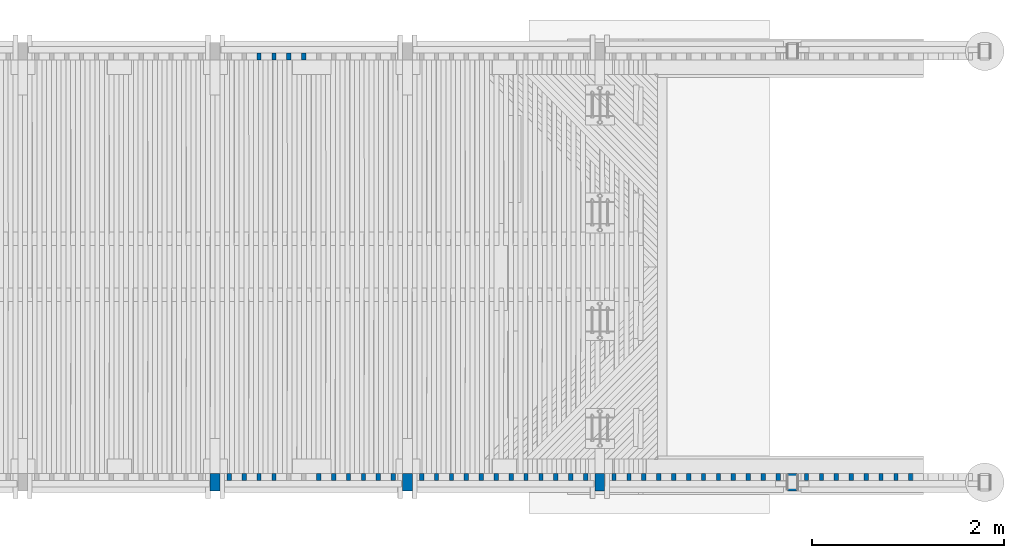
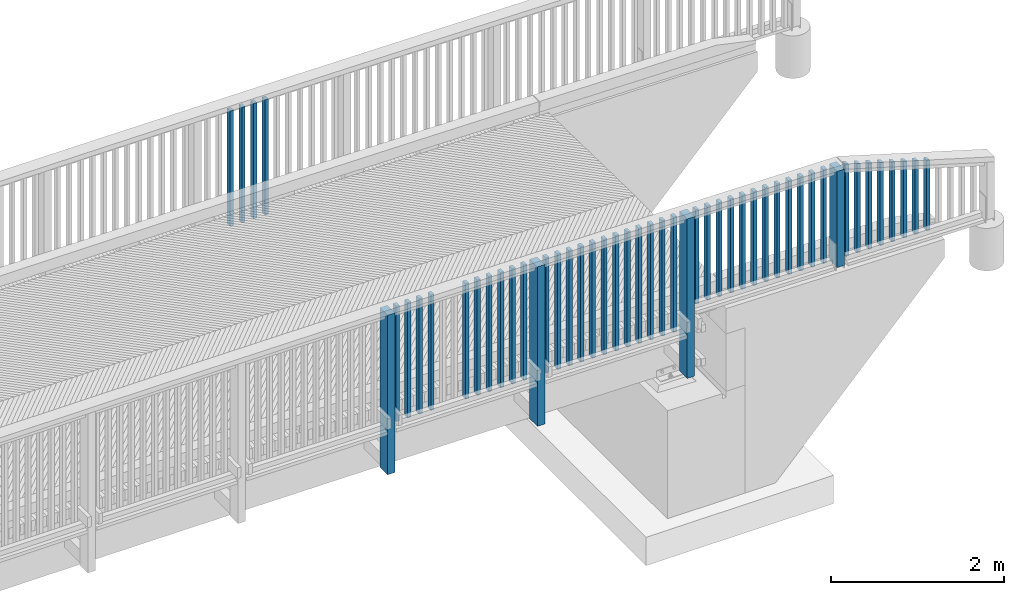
# One storey, part 10 of 52: 50 columns.
"""IFC2X3 building model written with IfcOpenShell, lengths in millimetres."""

import ifcopenshell
import ifcopenshell.guid

model = None  # the IFC model being written
_history = None  # IfcOwnerHistory: only IFC2X3 demands one
_inside = {}  # id of a spatial element -> (the spatial element, [elements in it])
_under = {}  # id of a project, library or spatial element -> (it, [spatial elements below it])
_declared = {}  # id of a project -> (the project, [libraries it declares])
_typed = {}  # id of a type object -> (the type object, [elements of that type])
_made_of = {}  # id of a material, layer set ... -> (it, [elements and type objects made of it])


def new_model(schema):
    """Start an empty IFC model of exactly this schema.

    Asked for "IFC4X3", IfcOpenShell would pick the latest addendum, in which some entities
    have other attributes; the version numbers below select the first issue.
    IFC2X3 requires an IfcOwnerHistory on every rooted entity: one is made here for all.
    """
    global model, _history
    if schema == "IFC4X3":
        model = ifcopenshell.file(schema_version=(4, 3, 0, 0))
    else:
        model = ifcopenshell.file(schema=schema)
    _inside.clear()
    _under.clear()
    _declared.clear()
    _typed.clear()
    _made_of.clear()
    _history = None
    if model.schema == "IFC2X3":
        org = make("IfcOrganization", Name="unknown")
        user = make(
            "IfcPersonAndOrganization",
            ThePerson=make("IfcPerson", FamilyName="unknown"),
            TheOrganization=org,
        )
        app = make(
            "IfcApplication",
            ApplicationDeveloper=org,
            Version="unknown",
            ApplicationFullName="unknown",
            ApplicationIdentifier="unknown",
        )
        _history = make(
            "IfcOwnerHistory",
            OwningUser=user,
            OwningApplication=app,
            ChangeAction="ADDED",
            CreationDate=0,
        )
    return model


def make(cls, **values):
    """One entity of the class cls with the attributes given. An attribute that is None is left unset."""
    return model.create_entity(
        cls, **{name: value for name, value in values.items() if value is not None}
    )


def rooted(cls, **values):
    """An entity with a GlobalId (a new one), such as an element, a storey or a relation."""
    return make(cls, GlobalId=ifcopenshell.guid.new(), OwnerHistory=_history, **values)


def si_unit(unit_type, name, prefix=None):
    """IfcSIUnit, for example si_unit("LENGTHUNIT", "METRE", prefix="MILLI")."""
    return make("IfcSIUnit", UnitType=unit_type, Prefix=prefix, Name=name)


def assignment(units):
    """IfcUnitAssignment: the units of a project."""
    return None if units is None else make("IfcUnitAssignment", Units=units)


def point(xyz):
    """IfcCartesianPoint."""
    return None if xyz is None else make("IfcCartesianPoint", Coordinates=xyz)


def direction(xyz):
    """IfcDirection."""
    return None if xyz is None else make("IfcDirection", DirectionRatios=xyz)


def frame(location, z_axis=None, x_axis=None):
    """IfcAxis2Placement3D, a coordinate frame: its origin and axes. An axis left out is left unset."""
    return make(
        "IfcAxis2Placement3D",
        Location=point(location),
        Axis=direction(z_axis),
        RefDirection=direction(x_axis),
    )


def origin_with_axes():
    """The frame at (0, 0, 0) with the z axis (0, 0, 1) and the x axis (1, 0, 0) written out."""
    return frame((0.0, 0.0, 0.0), z_axis=(0.0, 0.0, 1.0), x_axis=(1.0, 0.0, 0.0))


def place(relative_to, where):
    """IfcLocalPlacement: puts the frame where relative to a parent placement (None: the world)."""
    return make(
        "IfcLocalPlacement", PlacementRelTo=relative_to, RelativePlacement=where
    )


def context(
    kind, dimensions, precision=None, world=None, true_north=None, identifier=None
):
    """IfcGeometricRepresentationContext, for example the 3D "Model" context."""
    return make(
        "IfcGeometricRepresentationContext",
        ContextIdentifier=identifier,
        ContextType=kind,
        CoordinateSpaceDimension=dimensions,
        Precision=precision,
        WorldCoordinateSystem=world,
        TrueNorth=true_north,
    )


def subcontext(parent, identifier, kind, view, scale=None):
    """IfcGeometricRepresentationSubContext, for example "Body" below "Model"."""
    return make(
        "IfcGeometricRepresentationSubContext",
        ContextIdentifier=identifier,
        ContextType=kind,
        ParentContext=parent,
        TargetScale=scale,
        TargetView=view,
    )


def project(units=None, contexts=None):
    """IfcProject with its units and contexts."""
    return rooted(
        "IfcProject",
        Name="project",
        RepresentationContexts=contexts,
        UnitsInContext=assignment(units),
    )


def spatial(cls, under=None, at=None, **own):
    """A site, building, storey or space (cls), placed at a placement, below another one or the project."""
    s = rooted(cls, ObjectPlacement=at, **own)
    if under is not None:
        _under.setdefault(under.id(), (under, []))[1].append(s)
    return s


def faces_of(points, faces, orient=None, outer=None):
    """IfcFace entities. A face is a list of loops; a loop is a list of indices into points, from 0.

    orient and outer hold one flag for each loop. By default every Orientation is true, the
    first loop of a face is its IfcFaceOuterBound and the others are IfcFaceBound.
    """
    made = []
    for i, loops in enumerate(faces):
        bounds = []
        for j, loop in enumerate(loops):
            is_outer = j == 0 if outer is None else outer[i][j]
            bounds.append(
                make(
                    "IfcFaceOuterBound" if is_outer else "IfcFaceBound",
                    Bound=make("IfcPolyLoop", Polygon=[points[k] for k in loop]),
                    Orientation=True if orient is None else orient[i][j],
                )
            )
        made.append(make("IfcFace", Bounds=bounds))
    return made


def faceted_brep(points, faces, orient=None, outer=None, voids=None):
    """IfcFacetedBrep: a solid bounded by flat faces; with voids (closed shells), ...WithVoids."""
    shared = [point(p) for p in points]
    hull = make("IfcClosedShell", CfsFaces=faces_of(shared, faces, orient, outer))
    if voids is None:
        return make("IfcFacetedBrep", Outer=hull)
    return make(
        "IfcFacetedBrepWithVoids",
        Outer=hull,
        Voids=[
            make(cls, CfsFaces=faces_of(shared, fs, o, b)) for cls, fs, o, b in voids
        ],
    )


def shape(context_of_items, identifier, shape_type, items):
    """IfcShapeRepresentation: the items that make up one representation, for example the "Body"."""
    return make(
        "IfcShapeRepresentation",
        ContextOfItems=context_of_items,
        RepresentationIdentifier=identifier,
        RepresentationType=shape_type,
        Items=items,
    )


def material(Name=None, Category=None):
    """IfcMaterial."""
    return make("IfcMaterial", Name=Name, Category=Category)


def made_of(thing, what):
    """Note that an element or type object is made of a material, layer set ...; save() writes the relation."""
    if what is not None:
        _made_of.setdefault(what.id(), (what, []))[1].append(thing)
    return thing


def type_object(cls, material=None, **own):
    """A type object (cls), such as IfcWallType, which elements share."""
    return made_of(rooted(cls, **own), material)


def element(
    cls,
    number,
    at=None,
    inside=None,
    cuts=None,
    type_object=None,
    material=None,
    context=None,
    identifier="Body",
    shape_type=None,
    held_by="IfcProductDefinitionShape",
    body=None,
    shapes=None,
    **own,
):
    """One element of the class cls, such as IfcWall. Its Tag is "e" and its number.

    at: its placement. inside: the storey or other place that contains it. cuts: it is an
    opening in that element (IfcRelVoidsElement). A single representation is given by context,
    identifier, shape_type and body (its items); several are given by shapes. held_by: the class
    of the entity that holds the representations. save() writes the other relations.
    """
    e = rooted(cls, Tag="e%d" % number, ObjectPlacement=at, **own)
    if body is not None:
        shapes = [shape(context, identifier, shape_type, body)]
    if shapes is not None:
        e.Representation = make(held_by, Representations=shapes)
    if inside is not None:
        _inside.setdefault(inside.id(), (inside, []))[1].append(e)
    if cuts is not None:
        rooted(
            "IfcRelVoidsElement", RelatingBuildingElement=cuts, RelatedOpeningElement=e
        )
    if type_object is not None:
        _typed.setdefault(type_object.id(), (type_object, []))[1].append(e)
    return made_of(e, material)


def aggregate(whole, parts):
    """IfcRelAggregates: a whole, such as a stair, and the parts it consists of."""
    return rooted("IfcRelAggregates", RelatingObject=whole, RelatedObjects=parts)


def save(model, path):
    """Write the relations noted so far, then the file.

    IfcRelAggregates (storeys below a building ...), IfcRelContainedInSpatialStructure (elements
    in a storey), IfcRelDefinesByType, IfcRelAssociatesMaterial and IfcRelDeclares: one each for
    every whole, place, type object, material and project.
    """
    for whole, parts in _under.values():
        aggregate(whole, parts)
    for where, things in _inside.values():
        rooted(
            "IfcRelContainedInSpatialStructure",
            RelatedElements=things,
            RelatingStructure=where,
        )
    for kind, things in _typed.values():
        rooted("IfcRelDefinesByType", RelatedObjects=things, RelatingType=kind)
    for what, things in _made_of.values():
        rooted("IfcRelAssociatesMaterial", RelatedObjects=things, RelatingMaterial=what)
    for by, libraries in _declared.values():
        rooted("IfcRelDeclares", RelatingContext=by, RelatedDefinitions=libraries)
    model.write(path)


model = new_model("IFC2X3")

# Units and contexts
model_context = context("Model", 3, precision=1e-05, world=origin_with_axes())
body_context = subcontext(model_context, "Body", "Model", "MODEL_VIEW")
ifc_project = project(units=[si_unit("LENGTHUNIT", "METRE", prefix="MILLI"), si_unit("AREAUNIT", "SQUARE_METRE"), si_unit("VOLUMEUNIT", "CUBIC_METRE"), si_unit("MASSUNIT", "GRAM", prefix="KILO"), si_unit("TIMEUNIT", "SECOND"), si_unit("PLANEANGLEUNIT", "RADIAN"), si_unit("SOLIDANGLEUNIT", "STERADIAN"), si_unit("THERMODYNAMICTEMPERATUREUNIT", "DEGREE_CELSIUS"), si_unit("LUMINOUSINTENSITYUNIT", "LUMEN")], contexts=[model_context])

# Site, building, storey
site_placement = place(None, origin_with_axes())
site = spatial("IfcSite", under=ifc_project, at=site_placement, Name="Undefined", CompositionType="ELEMENT")
building_placement = place(site_placement, origin_with_axes())
building = spatial("IfcBuilding", under=site, at=building_placement, Name="Undefined", CompositionType="ELEMENT")
storey_placement = place(building_placement, origin_with_axes())
storey = spatial("IfcBuildingStorey", under=building, at=storey_placement, Name="Undefined", CompositionType="ELEMENT", Elevation=0.0)

# Columns
ifc_material = material(Name="TIMBER/Timber_Undefined")
column_type_1 = type_object("IfcColumnType", Name="180*100", PredefinedType="NOTDEFINED")
column_1_placement = place(storey_placement, frame((17999.9999992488, 125.01209190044, 3128.38000000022), z_axis=(0.0, 1.0, 0.0), x_axis=(0.0, 0.0, 1.0)))
element("IfcColumn", 1, at=column_1_placement, inside=storey, type_object=column_type_1, material=ifc_material, Name="KAIDEPYLVÄS", ObjectType="180*100", context=body_context, shape_type="Brep", body=[
    faceted_brep([(-5.71000000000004, 50.0, -90.0), (-5.71000000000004, 50.0, 90.0), (1351.21940355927, 50.0, 90.0), (1351.21940355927, 50.0, -90.0), (-5.71000000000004, -50.0, 90.0), (1352.87649222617, -50.0, 90.0), (-5.71000000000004, -50.0, -90.0), (1352.87649222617, -50.0, -90.0)], [[[0, 1, 2, 3]], [[1, 4, 5, 2]], [[4, 6, 7, 5]], [[6, 0, 3, 7]], [[5, 7, 3, 2]], [[6, 4, 1, 0]]]),
])
for number, where, z_axis, x_axis in (
    (2, (16000.0000678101, 125.01209190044, 2260.26004297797), (0.0, 1.0, 0.0), (0.0, 0.0, 1.0)),
    (3, (14000.0000678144, 125.01209190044, 2283.46176690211), (0.0, 1.0, 0.0), (0.0, 0.0, 1.0)),
    (4, (12000.0000678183, 125.01209190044, 2300.03388065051), (0.0, 1.0, 0.0), (0.0, 0.0, 1.0)),
):
    element("IfcColumn", number, at=place(storey_placement, frame(where, z_axis=z_axis, x_axis=x_axis)), inside=storey, type_object=column_type_1, material=ifc_material, Name="KAIDEPYLVÄS", ObjectType="180*100", context=body_context, shape_type="Brep", body=[
        faceted_brep([(0.0, 50.0, -90.0), (0.0, 50.0, 90.0), (2250.0, 50.0, 90.0), (2250.0, 50.0, -90.0), (0.0, -50.0, 90.0), (2250.0, -50.0, 90.0), (0.0, -50.0, -90.0), (2250.0, -50.0, -90.0)], [[[0, 1, 2, 3]], [[1, 4, 5, 2]], [[4, 6, 7, 5]], [[6, 0, 3, 7]], [[5, 7, 3, 2]], [[6, 4, 1, 0]]]),
    ])
column_type_2 = type_object("IfcColumnType", Name="70*45", PredefinedType="NOTDEFINED")
column_2_placement = place(storey_placement, frame((18147.4999992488, 180.01209190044, 3079.15), z_axis=(0.0, -1.0, 0.0), x_axis=(0.0, 0.0, 1.0)))
element("IfcColumn", 5, at=column_2_placement, inside=storey, type_object=column_type_2, material=ifc_material, Name="BEAM", ObjectType="70*45", context=body_context, shape_type="Brep", body=[
    faceted_brep([(69.4380529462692, 22.5, -35.0), (69.4380529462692, 22.5, 35.0), (1375.94682334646, 22.5, 35.0), (1375.94682334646, 22.5, -35.0), (68.751055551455, -22.5, 35.0), (1362.51131766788, -22.5, 35.0), (68.751055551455, -22.5, -35.0), (1362.51131766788, -22.5, -35.0)], [[[0, 1, 2, 3]], [[1, 4, 5, 2]], [[4, 6, 7, 5]], [[6, 0, 3, 7]], [[5, 7, 3, 2]], [[6, 4, 1, 0]]]),
])
column_3_placement = place(storey_placement, frame((18302.4999992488, 180.01209190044, 3079.15), z_axis=(0.0, -1.0, 0.0), x_axis=(0.0, 0.0, 1.0)))
element("IfcColumn", 6, at=column_3_placement, inside=storey, type_object=column_type_2, material=ifc_material, Name="BEAM", ObjectType="70*45", context=body_context, shape_type="Brep", body=[
    faceted_brep([(67.0717285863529, 22.5, -35.0), (67.0717285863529, 22.5, 35.0), (1329.66897045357, 22.5, 35.0), (1329.66897045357, 22.5, -35.0), (66.3847311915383, -22.5, 35.0), (1316.23346477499, -22.5, 35.0), (66.3847311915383, -22.5, -35.0), (1316.23346477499, -22.5, -35.0)], [[[0, 1, 2, 3]], [[1, 4, 5, 2]], [[4, 6, 7, 5]], [[6, 0, 3, 7]], [[5, 7, 3, 2]], [[6, 4, 1, 0]]]),
])
column_4_placement = place(storey_placement, frame((18457.4999992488, 180.01209190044, 3079.15), z_axis=(0.0, -1.0, 0.0), x_axis=(0.0, 0.0, 1.0)))
element("IfcColumn", 7, at=column_4_placement, inside=storey, type_object=column_type_2, material=ifc_material, Name="BEAM", ObjectType="70*45", context=body_context, shape_type="Brep", body=[
    faceted_brep([(64.7054042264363, 22.5, -35.0), (64.7054042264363, 22.5, 35.0), (1283.39111756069, 22.5, 35.0), (1283.39111756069, 22.5, -35.0), (64.0184068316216, -22.5, 35.0), (1269.95561188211, -22.5, 35.0), (64.0184068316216, -22.5, -35.0), (1269.95561188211, -22.5, -35.0)], [[[0, 1, 2, 3]], [[1, 4, 5, 2]], [[4, 6, 7, 5]], [[6, 0, 3, 7]], [[5, 7, 3, 2]], [[6, 4, 1, 0]]]),
])
column_5_placement = place(storey_placement, frame((18612.4999992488, 180.01209190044, 3079.15), z_axis=(0.0, -1.0, 0.0), x_axis=(0.0, 0.0, 1.0)))
element("IfcColumn", 8, at=column_5_placement, inside=storey, type_object=column_type_2, material=ifc_material, Name="BEAM", ObjectType="70*45", context=body_context, shape_type="Brep", body=[
    faceted_brep([(62.3390798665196, 22.5, -35.0), (62.3390798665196, 22.5, 35.0), (1237.1132646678, 22.5, 35.0), (1237.1132646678, 22.5, -35.0), (61.6520824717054, -22.5, 35.0), (1223.67775898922, -22.5, 35.0), (61.6520824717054, -22.5, -35.0), (1223.67775898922, -22.5, -35.0)], [[[0, 1, 2, 3]], [[1, 4, 5, 2]], [[4, 6, 7, 5]], [[6, 0, 3, 7]], [[5, 7, 3, 2]], [[6, 4, 1, 0]]]),
])
column_6_placement = place(storey_placement, frame((18767.4999992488, 180.01209190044, 3079.15), z_axis=(0.0, -1.0, 0.0), x_axis=(0.0, 0.0, 1.0)))
element("IfcColumn", 9, at=column_6_placement, inside=storey, type_object=column_type_2, material=ifc_material, Name="BEAM", ObjectType="70*45", context=body_context, shape_type="Brep", body=[
    faceted_brep([(59.9727555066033, 22.5, -35.0), (59.9727555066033, 22.5, 35.0), (1190.83541177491, 22.5, 35.0), (1190.83541177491, 22.5, -35.0), (59.2857581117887, -22.5, 35.0), (1177.39990609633, -22.5, 35.0), (59.2857581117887, -22.5, -35.0), (1177.39990609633, -22.5, -35.0)], [[[0, 1, 2, 3]], [[1, 4, 5, 2]], [[4, 6, 7, 5]], [[6, 0, 3, 7]], [[5, 7, 3, 2]], [[6, 4, 1, 0]]]),
])
column_7_placement = place(storey_placement, frame((18922.4999992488, 180.01209190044, 3079.15), z_axis=(0.0, -1.0, 0.0), x_axis=(0.0, 0.0, 1.0)))
element("IfcColumn", 10, at=column_7_placement, inside=storey, type_object=column_type_2, material=ifc_material, Name="BEAM", ObjectType="70*45", context=body_context, shape_type="Brep", body=[
    faceted_brep([(57.6064311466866, 22.5, -35.0), (57.6064311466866, 22.5, 35.0), (1144.55755888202, 22.5, 35.0), (1144.55755888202, 22.5, -35.0), (56.9194337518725, -22.5, 35.0), (1131.12205320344, -22.5, 35.0), (56.9194337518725, -22.5, -35.0), (1131.12205320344, -22.5, -35.0)], [[[0, 1, 2, 3]], [[1, 4, 5, 2]], [[4, 6, 7, 5]], [[6, 0, 3, 7]], [[5, 7, 3, 2]], [[6, 4, 1, 0]]]),
])
column_8_placement = place(storey_placement, frame((19077.4999992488, 180.01209190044, 3079.15), z_axis=(0.0, -1.0, 0.0), x_axis=(0.0, 0.0, 1.0)))
element("IfcColumn", 11, at=column_8_placement, inside=storey, type_object=column_type_2, material=ifc_material, Name="BEAM", ObjectType="70*45", context=body_context, shape_type="Brep", body=[
    faceted_brep([(55.2401067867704, 22.5, -35.0), (55.2401067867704, 22.5, 35.0), (1098.27970598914, 22.5, 35.0), (1098.27970598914, 22.5, -35.0), (54.5531093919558, -22.5, 35.0), (1084.84420031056, -22.5, 35.0), (54.5531093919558, -22.5, -35.0), (1084.84420031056, -22.5, -35.0)], [[[0, 1, 2, 3]], [[1, 4, 5, 2]], [[4, 6, 7, 5]], [[6, 0, 3, 7]], [[5, 7, 3, 2]], [[6, 4, 1, 0]]]),
])
column_9_placement = place(storey_placement, frame((19232.4999992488, 180.01209190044, 3079.15), z_axis=(0.0, -1.0, 0.0), x_axis=(0.0, 0.0, 1.0)))
element("IfcColumn", 12, at=column_9_placement, inside=storey, type_object=column_type_2, material=ifc_material, Name="BEAM", ObjectType="70*45", context=body_context, shape_type="Brep", body=[
    faceted_brep([(52.8737824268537, 22.5, -35.0), (52.8737824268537, 22.5, 35.0), (1052.00185309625, 22.5, 35.0), (1052.00185309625, 22.5, -35.0), (52.1867850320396, -22.5, 35.0), (1038.56634741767, -22.5, 35.0), (52.1867850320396, -22.5, -35.0), (1038.56634741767, -22.5, -35.0)], [[[0, 1, 2, 3]], [[1, 4, 5, 2]], [[4, 6, 7, 5]], [[6, 0, 3, 7]], [[5, 7, 3, 2]], [[6, 4, 1, 0]]]),
])
column_10_placement = place(storey_placement, frame((12922.5000007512, 4549.98790809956, 3109.68000000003), z_axis=(0.0, 1.0, 0.0), x_axis=(0.0, 0.0, 1.0)))
element("IfcColumn", 13, at=column_10_placement, inside=storey, type_object=column_type_2, material=ifc_material, Name="BEAM", ObjectType="70*45", context=body_context, shape_type="Brep", body=[
    faceted_brep([(-197.455118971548, 22.5, -35.0), (-197.455118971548, 22.5, 35.0), (1432.54754364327, 22.5, 35.0), (1432.54754364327, 22.5, -35.0), (-197.062621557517, -22.5, 35.0), (1432.9400410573, -22.5, 35.0), (-197.062621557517, -22.5, -35.0), (1432.9400410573, -22.5, -35.0)], [[[0, 1, 2, 3]], [[1, 4, 5, 2]], [[4, 6, 7, 5]], [[6, 0, 3, 7]], [[5, 7, 3, 2]], [[6, 4, 1, 0]]]),
])
column_11_placement = place(storey_placement, frame((12767.5000007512, 4549.98790809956, 3109.68000000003), z_axis=(0.0, 1.0, 0.0), x_axis=(0.0, 0.0, 1.0)))
element("IfcColumn", 14, at=column_11_placement, inside=storey, type_object=column_type_2, material=ifc_material, Name="BEAM", ObjectType="70*45", context=body_context, shape_type="Brep", body=[
    faceted_brep([(-196.103183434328, 22.5, -35.0), (-196.103183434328, 22.5, 35.0), (1433.89947918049, 22.5, 35.0), (1433.89947918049, 22.5, -35.0), (-195.710686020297, -22.5, 35.0), (1434.29197659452, -22.5, 35.0), (-195.710686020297, -22.5, -35.0), (1434.29197659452, -22.5, -35.0)], [[[0, 1, 2, 3]], [[1, 4, 5, 2]], [[4, 6, 7, 5]], [[6, 0, 3, 7]], [[5, 7, 3, 2]], [[6, 4, 1, 0]]]),
])
column_12_placement = place(storey_placement, frame((12612.5000007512, 4549.98790809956, 3109.68000000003), z_axis=(0.0, 1.0, 0.0), x_axis=(0.0, 0.0, 1.0)))
element("IfcColumn", 15, at=column_12_placement, inside=storey, type_object=column_type_2, material=ifc_material, Name="BEAM", ObjectType="70*45", context=body_context, shape_type="Brep", body=[
    faceted_brep([(-194.751247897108, 22.5, -35.0), (-194.751247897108, 22.5, 35.0), (1435.25141471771, 22.5, 35.0), (1435.25141471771, 22.5, -35.0), (-194.358750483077, -22.5, 35.0), (1435.64391213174, -22.5, 35.0), (-194.358750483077, -22.5, -35.0), (1435.64391213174, -22.5, -35.0)], [[[0, 1, 2, 3]], [[1, 4, 5, 2]], [[4, 6, 7, 5]], [[6, 0, 3, 7]], [[5, 7, 3, 2]], [[6, 4, 1, 0]]]),
])
column_13_placement = place(storey_placement, frame((12457.5000007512, 4549.98790809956, 3109.68000000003), z_axis=(0.0, 1.0, 0.0), x_axis=(0.0, 0.0, 1.0)))
element("IfcColumn", 16, at=column_13_placement, inside=storey, type_object=column_type_2, material=ifc_material, Name="BEAM", ObjectType="70*45", context=body_context, shape_type="Brep", body=[
    faceted_brep([(-193.399312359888, 22.5, -35.0), (-193.399312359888, 22.5, 35.0), (1436.60335025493, 22.5, 35.0), (1436.60335025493, 22.5, -35.0), (-193.006814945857, -22.5, 35.0), (1436.99584766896, -22.5, 35.0), (-193.006814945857, -22.5, -35.0), (1436.99584766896, -22.5, -35.0)], [[[0, 1, 2, 3]], [[1, 4, 5, 2]], [[4, 6, 7, 5]], [[6, 0, 3, 7]], [[5, 7, 3, 2]], [[6, 4, 1, 0]]]),
])
column_14_placement = place(storey_placement, frame((16147.4999992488, 180.01209190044, 3109.68000000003), z_axis=(0.0, -1.0, 0.0), x_axis=(0.0, 0.0, 1.0)))
element("IfcColumn", 17, at=column_14_placement, inside=storey, type_object=column_type_2, material=ifc_material, Name="BEAM", ObjectType="70*45", context=body_context, shape_type="Brep", body=[
    faceted_brep([(69.4380529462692, 22.5, -35.0), (69.4380529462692, 22.5, 35.0), (1399.43805294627, 22.5, 35.0), (1399.43805294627, 22.5, -35.0), (68.751055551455, -22.5, 35.0), (1398.75105555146, -22.5, 35.0), (68.751055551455, -22.5, -35.0), (1398.75105555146, -22.5, -35.0)], [[[0, 1, 2, 3]], [[1, 4, 5, 2]], [[4, 6, 7, 5]], [[6, 0, 3, 7]], [[5, 7, 3, 2]], [[6, 4, 1, 0]]]),
])
column_15_placement = place(storey_placement, frame((16302.4999992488, 180.01209190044, 3109.68000000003), z_axis=(0.0, -1.0, 0.0), x_axis=(0.0, 0.0, 1.0)))
element("IfcColumn", 18, at=column_15_placement, inside=storey, type_object=column_type_2, material=ifc_material, Name="BEAM", ObjectType="70*45", context=body_context, shape_type="Brep", body=[
    faceted_brep([(67.0717285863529, 22.5, -35.0), (67.0717285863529, 22.5, 35.0), (1397.07172858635, 22.5, 35.0), (1397.07172858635, 22.5, -35.0), (66.3847311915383, -22.5, 35.0), (1396.38473119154, -22.5, 35.0), (66.3847311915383, -22.5, -35.0), (1396.38473119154, -22.5, -35.0)], [[[0, 1, 2, 3]], [[1, 4, 5, 2]], [[4, 6, 7, 5]], [[6, 0, 3, 7]], [[5, 7, 3, 2]], [[6, 4, 1, 0]]]),
])
column_16_placement = place(storey_placement, frame((16457.4999992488, 180.01209190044, 3109.68000000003), z_axis=(0.0, -1.0, 0.0), x_axis=(0.0, 0.0, 1.0)))
element("IfcColumn", 19, at=column_16_placement, inside=storey, type_object=column_type_2, material=ifc_material, Name="BEAM", ObjectType="70*45", context=body_context, shape_type="Brep", body=[
    faceted_brep([(64.7054042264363, 22.5, -35.0), (64.7054042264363, 22.5, 35.0), (1394.70540422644, 22.5, 35.0), (1394.70540422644, 22.5, -35.0), (64.0184068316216, -22.5, 35.0), (1394.01840683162, -22.5, 35.0), (64.0184068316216, -22.5, -35.0), (1394.01840683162, -22.5, -35.0)], [[[0, 1, 2, 3]], [[1, 4, 5, 2]], [[4, 6, 7, 5]], [[6, 0, 3, 7]], [[5, 7, 3, 2]], [[6, 4, 1, 0]]]),
])
column_17_placement = place(storey_placement, frame((16612.4999992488, 180.01209190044, 3109.68000000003), z_axis=(0.0, -1.0, 0.0), x_axis=(0.0, 0.0, 1.0)))
element("IfcColumn", 20, at=column_17_placement, inside=storey, type_object=column_type_2, material=ifc_material, Name="BEAM", ObjectType="70*45", context=body_context, shape_type="Brep", body=[
    faceted_brep([(62.3390798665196, 22.5, -35.0), (62.3390798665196, 22.5, 35.0), (1392.33907986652, 22.5, 35.0), (1392.33907986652, 22.5, -35.0), (61.6520824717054, -22.5, 35.0), (1391.65208247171, -22.5, 35.0), (61.6520824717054, -22.5, -35.0), (1391.65208247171, -22.5, -35.0)], [[[0, 1, 2, 3]], [[1, 4, 5, 2]], [[4, 6, 7, 5]], [[6, 0, 3, 7]], [[5, 7, 3, 2]], [[6, 4, 1, 0]]]),
])
column_18_placement = place(storey_placement, frame((16767.4999992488, 180.01209190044, 3109.68000000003), z_axis=(0.0, -1.0, 0.0), x_axis=(0.0, 0.0, 1.0)))
element("IfcColumn", 21, at=column_18_placement, inside=storey, type_object=column_type_2, material=ifc_material, Name="BEAM", ObjectType="70*45", context=body_context, shape_type="Brep", body=[
    faceted_brep([(59.9727555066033, 22.5, -35.0), (59.9727555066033, 22.5, 35.0), (1389.97275550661, 22.5, 35.0), (1389.97275550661, 22.5, -35.0), (59.2857581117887, -22.5, 35.0), (1389.28575811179, -22.5, 35.0), (59.2857581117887, -22.5, -35.0), (1389.28575811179, -22.5, -35.0)], [[[0, 1, 2, 3]], [[1, 4, 5, 2]], [[4, 6, 7, 5]], [[6, 0, 3, 7]], [[5, 7, 3, 2]], [[6, 4, 1, 0]]]),
])
column_19_placement = place(storey_placement, frame((16922.4999992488, 180.01209190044, 3109.68000000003), z_axis=(0.0, -1.0, 0.0), x_axis=(0.0, 0.0, 1.0)))
element("IfcColumn", 22, at=column_19_placement, inside=storey, type_object=column_type_2, material=ifc_material, Name="BEAM", ObjectType="70*45", context=body_context, shape_type="Brep", body=[
    faceted_brep([(57.6064311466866, 22.5, -35.0), (57.6064311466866, 22.5, 35.0), (1387.60643114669, 22.5, 35.0), (1387.60643114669, 22.5, -35.0), (56.9194337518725, -22.5, 35.0), (1386.91943375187, -22.5, 35.0), (56.9194337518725, -22.5, -35.0), (1386.91943375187, -22.5, -35.0)], [[[0, 1, 2, 3]], [[1, 4, 5, 2]], [[4, 6, 7, 5]], [[6, 0, 3, 7]], [[5, 7, 3, 2]], [[6, 4, 1, 0]]]),
])
column_20_placement = place(storey_placement, frame((17077.4999992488, 180.01209190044, 3109.68000000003), z_axis=(0.0, -1.0, 0.0), x_axis=(0.0, 0.0, 1.0)))
element("IfcColumn", 23, at=column_20_placement, inside=storey, type_object=column_type_2, material=ifc_material, Name="BEAM", ObjectType="70*45", context=body_context, shape_type="Brep", body=[
    faceted_brep([(55.2401067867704, 22.5, -35.0), (55.2401067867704, 22.5, 35.0), (1385.24010678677, 22.5, 35.0), (1385.24010678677, 22.5, -35.0), (54.5531093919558, -22.5, 35.0), (1384.55310939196, -22.5, 35.0), (54.5531093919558, -22.5, -35.0), (1384.55310939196, -22.5, -35.0)], [[[0, 1, 2, 3]], [[1, 4, 5, 2]], [[4, 6, 7, 5]], [[6, 0, 3, 7]], [[5, 7, 3, 2]], [[6, 4, 1, 0]]]),
])
column_21_placement = place(storey_placement, frame((17232.4999992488, 180.01209190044, 3109.68000000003), z_axis=(0.0, -1.0, 0.0), x_axis=(0.0, 0.0, 1.0)))
element("IfcColumn", 24, at=column_21_placement, inside=storey, type_object=column_type_2, material=ifc_material, Name="BEAM", ObjectType="70*45", context=body_context, shape_type="Brep", body=[
    faceted_brep([(52.8737824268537, 22.5, -35.0), (52.8737824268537, 22.5, 35.0), (1382.87378242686, 22.5, 35.0), (1382.87378242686, 22.5, -35.0), (52.1867850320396, -22.5, 35.0), (1382.18678503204, -22.5, 35.0), (52.1867850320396, -22.5, -35.0), (1382.18678503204, -22.5, -35.0)], [[[0, 1, 2, 3]], [[1, 4, 5, 2]], [[4, 6, 7, 5]], [[6, 0, 3, 7]], [[5, 7, 3, 2]], [[6, 4, 1, 0]]]),
])
column_22_placement = place(storey_placement, frame((17387.4999992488, 180.01209190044, 3109.68000000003), z_axis=(0.0, -1.0, 0.0), x_axis=(0.0, 0.0, 1.0)))
element("IfcColumn", 25, at=column_22_placement, inside=storey, type_object=column_type_2, material=ifc_material, Name="BEAM", ObjectType="70*45", context=body_context, shape_type="Brep", body=[
    faceted_brep([(50.5074580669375, 22.5, -35.0), (50.5074580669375, 22.5, 35.0), (1380.50745806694, 22.5, 35.0), (1380.50745806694, 22.5, -35.0), (49.8204606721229, -22.5, 35.0), (1379.82046067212, -22.5, 35.0), (49.8204606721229, -22.5, -35.0), (1379.82046067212, -22.5, -35.0)], [[[0, 1, 2, 3]], [[1, 4, 5, 2]], [[4, 6, 7, 5]], [[6, 0, 3, 7]], [[5, 7, 3, 2]], [[6, 4, 1, 0]]]),
])
column_23_placement = place(storey_placement, frame((17542.4999992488, 180.01209190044, 3109.68000000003), z_axis=(0.0, -1.0, 0.0), x_axis=(0.0, 0.0, 1.0)))
element("IfcColumn", 26, at=column_23_placement, inside=storey, type_object=column_type_2, material=ifc_material, Name="BEAM", ObjectType="70*45", context=body_context, shape_type="Brep", body=[
    faceted_brep([(48.1411337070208, 22.5, -35.0), (48.1411337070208, 22.5, 35.0), (1378.14113370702, 22.5, 35.0), (1378.14113370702, 22.5, -35.0), (47.4541363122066, -22.5, 35.0), (1377.45413631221, -22.5, 35.0), (47.4541363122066, -22.5, -35.0), (1377.45413631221, -22.5, -35.0)], [[[0, 1, 2, 3]], [[1, 4, 5, 2]], [[4, 6, 7, 5]], [[6, 0, 3, 7]], [[5, 7, 3, 2]], [[6, 4, 1, 0]]]),
])
column_24_placement = place(storey_placement, frame((17697.4999992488, 180.01209190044, 3109.68000000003), z_axis=(0.0, -1.0, 0.0), x_axis=(0.0, 0.0, 1.0)))
element("IfcColumn", 27, at=column_24_placement, inside=storey, type_object=column_type_2, material=ifc_material, Name="BEAM", ObjectType="70*45", context=body_context, shape_type="Brep", body=[
    faceted_brep([(45.7748093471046, 22.5, -35.0), (45.7748093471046, 22.5, 35.0), (1375.77480934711, 22.5, 35.0), (1375.77480934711, 22.5, -35.0), (45.0878119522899, -22.5, 35.0), (1375.08781195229, -22.5, 35.0), (45.0878119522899, -22.5, -35.0), (1375.08781195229, -22.5, -35.0)], [[[0, 1, 2, 3]], [[1, 4, 5, 2]], [[4, 6, 7, 5]], [[6, 0, 3, 7]], [[5, 7, 3, 2]], [[6, 4, 1, 0]]]),
])
column_25_placement = place(storey_placement, frame((17852.4999992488, 180.01209190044, 3109.68000000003), z_axis=(0.0, -1.0, 0.0), x_axis=(0.0, 0.0, 1.0)))
element("IfcColumn", 28, at=column_25_placement, inside=storey, type_object=column_type_2, material=ifc_material, Name="BEAM", ObjectType="70*45", context=body_context, shape_type="Brep", body=[
    faceted_brep([(43.4084849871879, 22.5, -35.0), (43.4084849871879, 22.5, 35.0), (1373.40848498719, 22.5, 35.0), (1373.40848498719, 22.5, -35.0), (42.7214875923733, -22.5, 35.0), (1372.72148759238, -22.5, 35.0), (42.7214875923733, -22.5, -35.0), (1372.72148759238, -22.5, -35.0)], [[[0, 1, 2, 3]], [[1, 4, 5, 2]], [[4, 6, 7, 5]], [[6, 0, 3, 7]], [[5, 7, 3, 2]], [[6, 4, 1, 0]]]),
])
column_26_placement = place(storey_placement, frame((15852.5000007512, 180.01209190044, 3109.68000000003), z_axis=(0.0, -1.0, 0.0), x_axis=(0.0, 0.0, 1.0)))
element("IfcColumn", 29, at=column_26_placement, inside=storey, type_object=column_type_2, material=ifc_material, Name="BEAM", ObjectType="70*45", context=body_context, shape_type="Brep", body=[
    faceted_brep([(-227.959802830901, 22.5, -35.0), (-227.959802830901, 22.5, 35.0), (1402.04537438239, 22.5, 35.0), (1402.04537438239, 22.5, -35.0), (-228.509317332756, -22.5, 35.0), (1401.49585889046, -22.5, 35.0), (-228.509317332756, -22.5, -35.0), (1401.49585889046, -22.5, -35.0)], [[[0, 1, 2, 3]], [[1, 4, 5, 2]], [[4, 6, 7, 5]], [[6, 0, 3, 7]], [[5, 7, 3, 2]], [[6, 4, 1, 0]]]),
])
column_27_placement = place(storey_placement, frame((15697.5000007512, 180.01209190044, 3109.68000000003), z_axis=(0.0, -1.0, 0.0), x_axis=(0.0, 0.0, 1.0)))
element("IfcColumn", 30, at=column_27_placement, inside=storey, type_object=column_type_2, material=ifc_material, Name="BEAM", ObjectType="70*45", context=body_context, shape_type="Brep", body=[
    faceted_brep([(-226.067030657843, 22.5, -35.0), (-226.067030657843, 22.5, 35.0), (1403.9381499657, 22.5, 35.0), (1403.9381499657, 22.5, -35.0), (-226.616545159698, -22.5, 35.0), (1403.38863447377, -22.5, 35.0), (-226.616545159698, -22.5, -35.0), (1403.38863447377, -22.5, -35.0)], [[[0, 1, 2, 3]], [[1, 4, 5, 2]], [[4, 6, 7, 5]], [[6, 0, 3, 7]], [[5, 7, 3, 2]], [[6, 4, 1, 0]]]),
])
column_28_placement = place(storey_placement, frame((15542.5000007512, 180.01209190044, 3109.68000000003), z_axis=(0.0, -1.0, 0.0), x_axis=(0.0, 0.0, 1.0)))
element("IfcColumn", 31, at=column_28_placement, inside=storey, type_object=column_type_2, material=ifc_material, Name="BEAM", ObjectType="70*45", context=body_context, shape_type="Brep", body=[
    faceted_brep([(-224.174258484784, 22.5, -35.0), (-224.174258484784, 22.5, 35.0), (1405.83092554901, 22.5, 35.0), (1405.83092554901, 22.5, -35.0), (-224.72377298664, -22.5, 35.0), (1405.28141005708, -22.5, 35.0), (-224.72377298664, -22.5, -35.0), (1405.28141005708, -22.5, -35.0)], [[[0, 1, 2, 3]], [[1, 4, 5, 2]], [[4, 6, 7, 5]], [[6, 0, 3, 7]], [[5, 7, 3, 2]], [[6, 4, 1, 0]]]),
])
column_29_placement = place(storey_placement, frame((15387.5000007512, 180.01209190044, 3109.68000000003), z_axis=(0.0, -1.0, 0.0), x_axis=(0.0, 0.0, 1.0)))
element("IfcColumn", 32, at=column_29_placement, inside=storey, type_object=column_type_2, material=ifc_material, Name="BEAM", ObjectType="70*45", context=body_context, shape_type="Brep", body=[
    faceted_brep([(-222.281486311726, 22.5, -35.0), (-222.281486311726, 22.5, 35.0), (1407.72370113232, 22.5, 35.0), (1407.72370113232, 22.5, -35.0), (-222.831000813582, -22.5, 35.0), (1407.17418564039, -22.5, 35.0), (-222.831000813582, -22.5, -35.0), (1407.17418564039, -22.5, -35.0)], [[[0, 1, 2, 3]], [[1, 4, 5, 2]], [[4, 6, 7, 5]], [[6, 0, 3, 7]], [[5, 7, 3, 2]], [[6, 4, 1, 0]]]),
])
column_30_placement = place(storey_placement, frame((15232.5000007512, 180.01209190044, 3109.68000000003), z_axis=(0.0, -1.0, 0.0), x_axis=(0.0, 0.0, 1.0)))
element("IfcColumn", 33, at=column_30_placement, inside=storey, type_object=column_type_2, material=ifc_material, Name="BEAM", ObjectType="70*45", context=body_context, shape_type="Brep", body=[
    faceted_brep([(-220.388714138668, 22.5, -35.0), (-220.388714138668, 22.5, 35.0), (1409.61647671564, 22.5, 35.0), (1409.61647671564, 22.5, -35.0), (-220.938228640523, -22.5, 35.0), (1409.06696122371, -22.5, 35.0), (-220.938228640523, -22.5, -35.0), (1409.06696122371, -22.5, -35.0)], [[[0, 1, 2, 3]], [[1, 4, 5, 2]], [[4, 6, 7, 5]], [[6, 0, 3, 7]], [[5, 7, 3, 2]], [[6, 4, 1, 0]]]),
])
column_31_placement = place(storey_placement, frame((15077.5000007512, 180.01209190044, 3109.68000000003), z_axis=(0.0, -1.0, 0.0), x_axis=(0.0, 0.0, 1.0)))
element("IfcColumn", 34, at=column_31_placement, inside=storey, type_object=column_type_2, material=ifc_material, Name="BEAM", ObjectType="70*45", context=body_context, shape_type="Brep", body=[
    faceted_brep([(-218.495941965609, 22.5, -35.0), (-218.495941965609, 22.5, 35.0), (1411.50925229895, 22.5, 35.0), (1411.50925229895, 22.5, -35.0), (-219.045456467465, -22.5, 35.0), (1410.95973680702, -22.5, 35.0), (-219.045456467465, -22.5, -35.0), (1410.95973680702, -22.5, -35.0)], [[[0, 1, 2, 3]], [[1, 4, 5, 2]], [[4, 6, 7, 5]], [[6, 0, 3, 7]], [[5, 7, 3, 2]], [[6, 4, 1, 0]]]),
])
column_32_placement = place(storey_placement, frame((14922.5000007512, 180.01209190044, 3109.68000000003), z_axis=(0.0, -1.0, 0.0), x_axis=(0.0, 0.0, 1.0)))
element("IfcColumn", 35, at=column_32_placement, inside=storey, type_object=column_type_2, material=ifc_material, Name="BEAM", ObjectType="70*45", context=body_context, shape_type="Brep", body=[
    faceted_brep([(-216.603169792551, 22.5, -35.0), (-216.603169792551, 22.5, 35.0), (1413.40202788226, 22.5, 35.0), (1413.40202788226, 22.5, -35.0), (-217.152684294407, -22.5, 35.0), (1412.85251239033, -22.5, 35.0), (-217.152684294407, -22.5, -35.0), (1412.85251239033, -22.5, -35.0)], [[[0, 1, 2, 3]], [[1, 4, 5, 2]], [[4, 6, 7, 5]], [[6, 0, 3, 7]], [[5, 7, 3, 2]], [[6, 4, 1, 0]]]),
])
column_33_placement = place(storey_placement, frame((14767.5000007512, 180.01209190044, 3109.68000000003), z_axis=(0.0, -1.0, 0.0), x_axis=(0.0, 0.0, 1.0)))
element("IfcColumn", 36, at=column_33_placement, inside=storey, type_object=column_type_2, material=ifc_material, Name="BEAM", ObjectType="70*45", context=body_context, shape_type="Brep", body=[
    faceted_brep([(-214.710397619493, 22.5, -35.0), (-214.710397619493, 22.5, 35.0), (1415.29480346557, 22.5, 35.0), (1415.29480346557, 22.5, -35.0), (-215.259912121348, -22.5, 35.0), (1414.74528797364, -22.5, 35.0), (-215.259912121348, -22.5, -35.0), (1414.74528797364, -22.5, -35.0)], [[[0, 1, 2, 3]], [[1, 4, 5, 2]], [[4, 6, 7, 5]], [[6, 0, 3, 7]], [[5, 7, 3, 2]], [[6, 4, 1, 0]]]),
])
column_34_placement = place(storey_placement, frame((14612.5000007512, 180.01209190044, 3109.68000000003), z_axis=(0.0, -1.0, 0.0), x_axis=(0.0, 0.0, 1.0)))
element("IfcColumn", 37, at=column_34_placement, inside=storey, type_object=column_type_2, material=ifc_material, Name="BEAM", ObjectType="70*45", context=body_context, shape_type="Brep", body=[
    faceted_brep([(-212.817625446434, 22.5, -35.0), (-212.817625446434, 22.5, 35.0), (1417.18757904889, 22.5, 35.0), (1417.18757904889, 22.5, -35.0), (-213.36713994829, -22.5, 35.0), (1416.63806355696, -22.5, 35.0), (-213.36713994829, -22.5, -35.0), (1416.63806355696, -22.5, -35.0)], [[[0, 1, 2, 3]], [[1, 4, 5, 2]], [[4, 6, 7, 5]], [[6, 0, 3, 7]], [[5, 7, 3, 2]], [[6, 4, 1, 0]]]),
])
column_35_placement = place(storey_placement, frame((14457.5000007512, 180.01209190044, 3109.68000000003), z_axis=(0.0, -1.0, 0.0), x_axis=(0.0, 0.0, 1.0)))
element("IfcColumn", 38, at=column_35_placement, inside=storey, type_object=column_type_2, material=ifc_material, Name="BEAM", ObjectType="70*45", context=body_context, shape_type="Brep", body=[
    faceted_brep([(-210.924853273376, 22.5, -35.0), (-210.924853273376, 22.5, 35.0), (1419.0803546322, 22.5, 35.0), (1419.0803546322, 22.5, -35.0), (-211.474367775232, -22.5, 35.0), (1418.53083914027, -22.5, 35.0), (-211.474367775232, -22.5, -35.0), (1418.53083914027, -22.5, -35.0)], [[[0, 1, 2, 3]], [[1, 4, 5, 2]], [[4, 6, 7, 5]], [[6, 0, 3, 7]], [[5, 7, 3, 2]], [[6, 4, 1, 0]]]),
])
column_36_placement = place(storey_placement, frame((14302.5000007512, 180.01209190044, 3109.68000000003), z_axis=(0.0, -1.0, 0.0), x_axis=(0.0, 0.0, 1.0)))
element("IfcColumn", 39, at=column_36_placement, inside=storey, type_object=column_type_2, material=ifc_material, Name="BEAM", ObjectType="70*45", context=body_context, shape_type="Brep", body=[
    faceted_brep([(-209.032081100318, 22.5, -35.0), (-209.032081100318, 22.5, 35.0), (1420.97313021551, 22.5, 35.0), (1420.97313021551, 22.5, -35.0), (-209.581595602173, -22.5, 35.0), (1420.42361472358, -22.5, 35.0), (-209.581595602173, -22.5, -35.0), (1420.42361472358, -22.5, -35.0)], [[[0, 1, 2, 3]], [[1, 4, 5, 2]], [[4, 6, 7, 5]], [[6, 0, 3, 7]], [[5, 7, 3, 2]], [[6, 4, 1, 0]]]),
])
column_37_placement = place(storey_placement, frame((14147.5000007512, 180.01209190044, 3109.68000000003), z_axis=(0.0, -1.0, 0.0), x_axis=(0.0, 0.0, 1.0)))
element("IfcColumn", 40, at=column_37_placement, inside=storey, type_object=column_type_2, material=ifc_material, Name="BEAM", ObjectType="70*45", context=body_context, shape_type="Brep", body=[
    faceted_brep([(-207.13930892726, 22.5, -35.0), (-207.13930892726, 22.5, 35.0), (1422.86590579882, 22.5, 35.0), (1422.86590579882, 22.5, -35.0), (-207.688823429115, -22.5, 35.0), (1422.31639030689, -22.5, 35.0), (-207.688823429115, -22.5, -35.0), (1422.31639030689, -22.5, -35.0)], [[[0, 1, 2, 3]], [[1, 4, 5, 2]], [[4, 6, 7, 5]], [[6, 0, 3, 7]], [[5, 7, 3, 2]], [[6, 4, 1, 0]]]),
])
column_38_placement = place(storey_placement, frame((13852.5000007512, 180.01209190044, 3109.68000000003), z_axis=(0.0, -1.0, 0.0), x_axis=(0.0, 0.0, 1.0)))
element("IfcColumn", 41, at=column_38_placement, inside=storey, type_object=column_type_2, material=ifc_material, Name="BEAM", ObjectType="70*45", context=body_context, shape_type="Brep", body=[
    faceted_brep([(-205.174234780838, 22.5, -35.0), (-205.174234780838, 22.5, 35.0), (1424.82842595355, 22.5, 35.0), (1424.82842595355, 22.5, -35.0), (-205.566732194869, -22.5, 35.0), (1424.43592853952, -22.5, 35.0), (-205.566732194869, -22.5, -35.0), (1424.43592853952, -22.5, -35.0)], [[[0, 1, 2, 3]], [[1, 4, 5, 2]], [[4, 6, 7, 5]], [[6, 0, 3, 7]], [[5, 7, 3, 2]], [[6, 4, 1, 0]]]),
])
column_39_placement = place(storey_placement, frame((13697.5000007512, 180.01209190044, 3109.68000000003), z_axis=(0.0, -1.0, 0.0), x_axis=(0.0, 0.0, 1.0)))
element("IfcColumn", 42, at=column_39_placement, inside=storey, type_object=column_type_2, material=ifc_material, Name="BEAM", ObjectType="70*45", context=body_context, shape_type="Brep", body=[
    faceted_brep([(-203.822299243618, 22.5, -35.0), (-203.822299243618, 22.5, 35.0), (1426.18036149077, 22.5, 35.0), (1426.18036149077, 22.5, -35.0), (-204.214796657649, -22.5, 35.0), (1425.78786407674, -22.5, 35.0), (-204.214796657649, -22.5, -35.0), (1425.78786407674, -22.5, -35.0)], [[[0, 1, 2, 3]], [[1, 4, 5, 2]], [[4, 6, 7, 5]], [[6, 0, 3, 7]], [[5, 7, 3, 2]], [[6, 4, 1, 0]]]),
])
column_40_placement = place(storey_placement, frame((13542.5000007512, 180.01209190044, 3109.68000000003), z_axis=(0.0, -1.0, 0.0), x_axis=(0.0, 0.0, 1.0)))
element("IfcColumn", 43, at=column_40_placement, inside=storey, type_object=column_type_2, material=ifc_material, Name="BEAM", ObjectType="70*45", context=body_context, shape_type="Brep", body=[
    faceted_brep([(-202.470363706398, 22.5, -35.0), (-202.470363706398, 22.5, 35.0), (1427.53229702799, 22.5, 35.0), (1427.53229702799, 22.5, -35.0), (-202.862861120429, -22.5, 35.0), (1427.13979961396, -22.5, 35.0), (-202.862861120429, -22.5, -35.0), (1427.13979961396, -22.5, -35.0)], [[[0, 1, 2, 3]], [[1, 4, 5, 2]], [[4, 6, 7, 5]], [[6, 0, 3, 7]], [[5, 7, 3, 2]], [[6, 4, 1, 0]]]),
])
column_41_placement = place(storey_placement, frame((13387.5000007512, 180.01209190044, 3109.68000000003), z_axis=(0.0, -1.0, 0.0), x_axis=(0.0, 0.0, 1.0)))
element("IfcColumn", 44, at=column_41_placement, inside=storey, type_object=column_type_2, material=ifc_material, Name="BEAM", ObjectType="70*45", context=body_context, shape_type="Brep", body=[
    faceted_brep([(-201.118428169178, 22.5, -35.0), (-201.118428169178, 22.5, 35.0), (1428.88423256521, 22.5, 35.0), (1428.88423256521, 22.5, -35.0), (-201.510925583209, -22.5, 35.0), (1428.49173515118, -22.5, 35.0), (-201.510925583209, -22.5, -35.0), (1428.49173515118, -22.5, -35.0)], [[[0, 1, 2, 3]], [[1, 4, 5, 2]], [[4, 6, 7, 5]], [[6, 0, 3, 7]], [[5, 7, 3, 2]], [[6, 4, 1, 0]]]),
])
column_42_placement = place(storey_placement, frame((13232.5000007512, 180.01209190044, 3109.68000000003), z_axis=(0.0, -1.0, 0.0), x_axis=(0.0, 0.0, 1.0)))
element("IfcColumn", 45, at=column_42_placement, inside=storey, type_object=column_type_2, material=ifc_material, Name="BEAM", ObjectType="70*45", context=body_context, shape_type="Brep", body=[
    faceted_brep([(-199.766492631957, 22.5, -35.0), (-199.766492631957, 22.5, 35.0), (1430.23616810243, 22.5, 35.0), (1430.23616810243, 22.5, -35.0), (-200.158990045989, -22.5, 35.0), (1429.8436706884, -22.5, 35.0), (-200.158990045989, -22.5, -35.0), (1429.8436706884, -22.5, -35.0)], [[[0, 1, 2, 3]], [[1, 4, 5, 2]], [[4, 6, 7, 5]], [[6, 0, 3, 7]], [[5, 7, 3, 2]], [[6, 4, 1, 0]]]),
])
column_43_placement = place(storey_placement, frame((13077.5000007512, 180.01209190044, 3109.68000000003), z_axis=(0.0, -1.0, 0.0), x_axis=(0.0, 0.0, 1.0)))
element("IfcColumn", 46, at=column_43_placement, inside=storey, type_object=column_type_2, material=ifc_material, Name="BEAM", ObjectType="70*45", context=body_context, shape_type="Brep", body=[
    faceted_brep([(-198.414557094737, 22.5, -35.0), (-198.414557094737, 22.5, 35.0), (1431.58810363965, 22.5, 35.0), (1431.58810363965, 22.5, -35.0), (-198.807054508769, -22.5, 35.0), (1431.19560622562, -22.5, 35.0), (-198.807054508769, -22.5, -35.0), (1431.19560622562, -22.5, -35.0)], [[[0, 1, 2, 3]], [[1, 4, 5, 2]], [[4, 6, 7, 5]], [[6, 0, 3, 7]], [[5, 7, 3, 2]], [[6, 4, 1, 0]]]),
])
column_44_placement = place(storey_placement, frame((12612.5000007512, 180.01209190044, 3109.68000000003), z_axis=(0.0, -1.0, 0.0), x_axis=(0.0, 0.0, 1.0)))
element("IfcColumn", 47, at=column_44_placement, inside=storey, type_object=column_type_2, material=ifc_material, Name="BEAM", ObjectType="70*45", context=body_context, shape_type="Brep", body=[
    faceted_brep([(-194.358750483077, 22.5, -35.0), (-194.358750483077, 22.5, 35.0), (1435.64391025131, 22.5, 35.0), (1435.64391025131, 22.5, -35.0), (-194.751247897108, -22.5, 35.0), (1435.25141283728, -22.5, 35.0), (-194.751247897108, -22.5, -35.0), (1435.25141283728, -22.5, -35.0)], [[[0, 1, 2, 3]], [[1, 4, 5, 2]], [[4, 6, 7, 5]], [[6, 0, 3, 7]], [[5, 7, 3, 2]], [[6, 4, 1, 0]]]),
])
column_45_placement = place(storey_placement, frame((12457.5000007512, 180.01209190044, 3109.68000000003), z_axis=(0.0, -1.0, 0.0), x_axis=(0.0, 0.0, 1.0)))
element("IfcColumn", 48, at=column_45_placement, inside=storey, type_object=column_type_2, material=ifc_material, Name="BEAM", ObjectType="70*45", context=body_context, shape_type="Brep", body=[
    faceted_brep([(-193.006814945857, 22.5, -35.0), (-193.006814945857, 22.5, 35.0), (1436.99584578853, 22.5, 35.0), (1436.99584578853, 22.5, -35.0), (-193.399312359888, -22.5, 35.0), (1436.6033483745, -22.5, 35.0), (-193.399312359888, -22.5, -35.0), (1436.6033483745, -22.5, -35.0)], [[[0, 1, 2, 3]], [[1, 4, 5, 2]], [[4, 6, 7, 5]], [[6, 0, 3, 7]], [[5, 7, 3, 2]], [[6, 4, 1, 0]]]),
])
column_46_placement = place(storey_placement, frame((12302.5000007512, 180.01209190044, 3109.68000000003), z_axis=(0.0, -1.0, 0.0), x_axis=(0.0, 0.0, 1.0)))
element("IfcColumn", 49, at=column_46_placement, inside=storey, type_object=column_type_2, material=ifc_material, Name="BEAM", ObjectType="70*45", context=body_context, shape_type="Brep", body=[
    faceted_brep([(-191.654879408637, 22.5, -35.0), (-191.654879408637, 22.5, 35.0), (1438.34778132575, 22.5, 35.0), (1438.34778132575, 22.5, -35.0), (-192.047376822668, -22.5, 35.0), (1437.95528391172, -22.5, 35.0), (-192.047376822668, -22.5, -35.0), (1437.95528391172, -22.5, -35.0)], [[[0, 1, 2, 3]], [[1, 4, 5, 2]], [[4, 6, 7, 5]], [[6, 0, 3, 7]], [[5, 7, 3, 2]], [[6, 4, 1, 0]]]),
])
column_47_placement = place(storey_placement, frame((12147.5000007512, 180.01209190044, 3109.68000000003), z_axis=(0.0, -1.0, 0.0), x_axis=(0.0, 0.0, 1.0)))
element("IfcColumn", 50, at=column_47_placement, inside=storey, type_object=column_type_2, material=ifc_material, Name="BEAM", ObjectType="70*45", context=body_context, shape_type="Brep", body=[
    faceted_brep([(-190.302943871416, 22.5, -35.0), (-190.302943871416, 22.5, 35.0), (1439.69971686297, 22.5, 35.0), (1439.69971686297, 22.5, -35.0), (-190.695441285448, -22.5, 35.0), (1439.30721944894, -22.5, 35.0), (-190.695441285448, -22.5, -35.0), (1439.30721944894, -22.5, -35.0)], [[[0, 1, 2, 3]], [[1, 4, 5, 2]], [[4, 6, 7, 5]], [[6, 0, 3, 7]], [[5, 7, 3, 2]], [[6, 4, 1, 0]]]),
])

save(model, "model.ifc")
